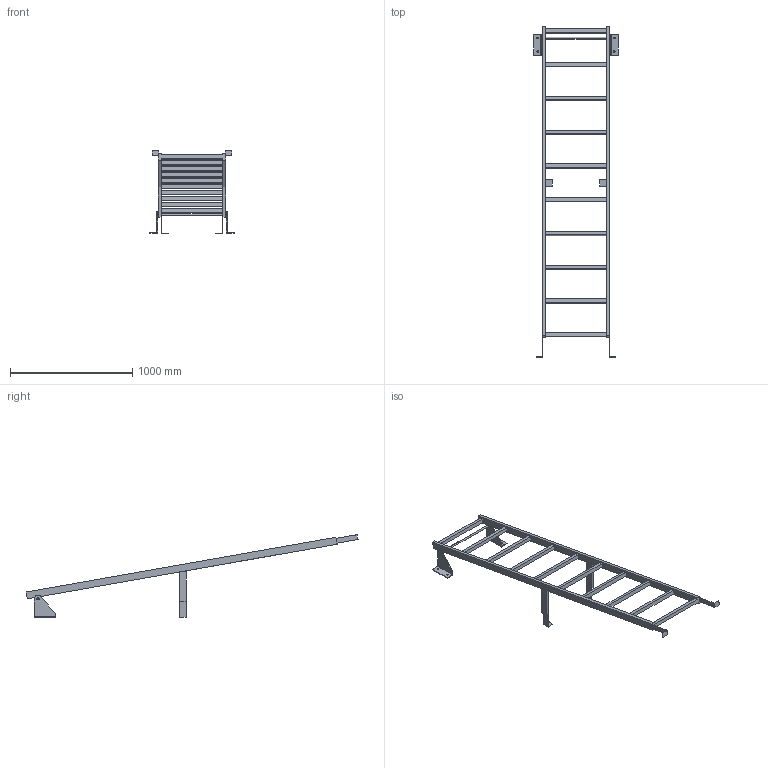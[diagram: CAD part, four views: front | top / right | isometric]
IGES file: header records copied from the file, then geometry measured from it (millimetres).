
Start section:  PTC IGES file: 52309763.igs
Global section: file name: 52309763.igs; native system: Creo Parametric by PTC Inc.; preprocessor: 2022162; author: wep; organization: Unknown; date: 20241017.090033; units: millimetre
Bounding box: 690 x 2710.73 x 675.41 mm (x, y, z)
Surface area: 1790954.2 mm2 (no closed solid volume)
Topology: 0 solids, 0 shells, 124 faces, 648 edges, 648 vertices
Faces by surface type: bspline 108, revolution 16
